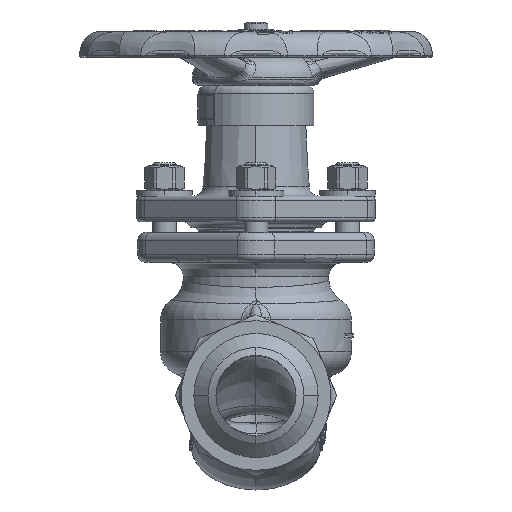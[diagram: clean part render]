
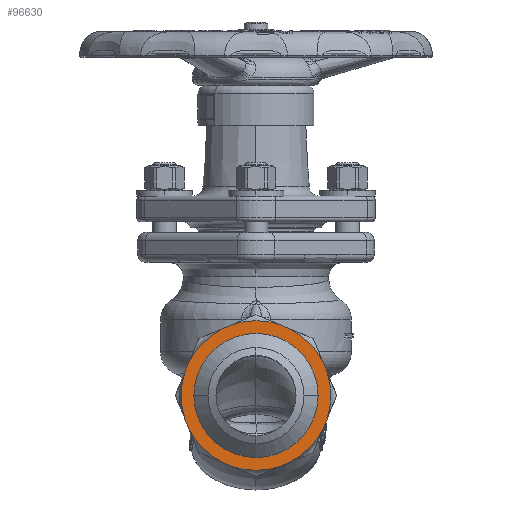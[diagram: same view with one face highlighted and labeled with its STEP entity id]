
A CAD part, left-side view. The second image highlights one B-rep face of the part: STEP entity #96630.
In plain terms, the highlighted planar face has unit normal (-1, 0, 0).
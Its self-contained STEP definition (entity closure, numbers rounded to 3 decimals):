
#10927=CARTESIAN_POINT('',(-92.5,0.,0.));
#10928=DIRECTION('',(-1.,0.,0.));
#10929=DIRECTION('',(0.,1.,0.));
#10930=AXIS2_PLACEMENT_3D('',#10927,#10928,#10929);
#10932=CARTESIAN_POINT('',(-92.5,0.,0.));
#10933=DIRECTION('',(-1.,0.,0.));
#10934=DIRECTION('',(0.,-1.,0.));
#10935=AXIS2_PLACEMENT_3D('',#10932,#10933,#10934);
#10937=DIRECTION('',(0.,-0.924,-0.383));
#10938=VECTOR('',#10937,5.509);
#10939=CARTESIAN_POINT('',(-92.5,-11.806,35.7));
#10940=LINE('',#10939,#10938);
#10945=CARTESIAN_POINT('',(-92.5,0.,0.));
#10946=DIRECTION('',(-1.,0.,0.));
#10947=DIRECTION('',(0.,-0.314,0.949));
#10948=AXIS2_PLACEMENT_3D('',#10945,#10946,#10947);
#10972=DIRECTION('',(0.,-0.924,0.383));
#10973=VECTOR('',#10972,5.509);
#10974=CARTESIAN_POINT('',(-92.5,16.895,33.591));
#10975=LINE('',#10974,#10973);
#10980=CARTESIAN_POINT('',(-92.5,0.,0.));
#10981=DIRECTION('',(-1.,0.,0.));
#10982=DIRECTION('',(0.,0.449,0.893));
#10983=AXIS2_PLACEMENT_3D('',#10980,#10981,#10982);
#11007=DIRECTION('',(0.,-0.383,0.924));
#11008=VECTOR('',#11007,5.509);
#11009=CARTESIAN_POINT('',(-92.5,35.7,11.806));
#11010=LINE('',#11009,#11008);
#11015=CARTESIAN_POINT('',(-92.5,0.,0.));
#11016=DIRECTION('',(-1.,0.,0.));
#11017=DIRECTION('',(0.,0.949,0.314));
#11018=AXIS2_PLACEMENT_3D('',#11015,#11016,#11017);
#11042=DIRECTION('',(0.,0.383,0.924));
#11043=VECTOR('',#11042,5.509);
#11044=CARTESIAN_POINT('',(-92.5,33.591,-16.895));
#11045=LINE('',#11044,#11043);
#11050=CARTESIAN_POINT('',(-92.5,0.,0.));
#11051=DIRECTION('',(-1.,0.,0.));
#11052=DIRECTION('',(0.,0.893,-0.449));
#11053=AXIS2_PLACEMENT_3D('',#11050,#11051,#11052);
#11077=DIRECTION('',(0.,0.924,0.383));
#11078=VECTOR('',#11077,5.509);
#11079=CARTESIAN_POINT('',(-92.5,11.806,-35.7));
#11080=LINE('',#11079,#11078);
#11085=CARTESIAN_POINT('',(-92.5,0.,0.));
#11086=DIRECTION('',(-1.,0.,0.));
#11087=DIRECTION('',(0.,0.314,-0.949));
#11088=AXIS2_PLACEMENT_3D('',#11085,#11086,#11087);
#11112=DIRECTION('',(0.,0.924,-0.383));
#11113=VECTOR('',#11112,5.509);
#11114=CARTESIAN_POINT('',(-92.5,-16.895,-33.591));
#11115=LINE('',#11114,#11113);
#11120=CARTESIAN_POINT('',(-92.5,0.,0.));
#11121=DIRECTION('',(-1.,0.,0.));
#11122=DIRECTION('',(0.,-0.449,-0.893));
#11123=AXIS2_PLACEMENT_3D('',#11120,#11121,#11122);
#11147=DIRECTION('',(0.,0.383,-0.924));
#11148=VECTOR('',#11147,5.509);
#11149=CARTESIAN_POINT('',(-92.5,-35.7,-11.806));
#11150=LINE('',#11149,#11148);
#11155=CARTESIAN_POINT('',(-92.5,0.,0.));
#11156=DIRECTION('',(-1.,0.,0.));
#11157=DIRECTION('',(0.,-0.949,-0.314));
#11158=AXIS2_PLACEMENT_3D('',#11155,#11156,#11157);
#11182=DIRECTION('',(0.,-0.383,-0.924));
#11183=VECTOR('',#11182,5.509);
#11184=CARTESIAN_POINT('',(-92.5,-33.591,16.895));
#11185=LINE('',#11184,#11183);
#11190=CARTESIAN_POINT('',(-92.5,0.,0.));
#11191=DIRECTION('',(-1.,0.,0.));
#11192=DIRECTION('',(0.,-0.893,0.449));
#11193=AXIS2_PLACEMENT_3D('',#11190,#11191,#11192);
#71797=CARTESIAN_POINT('',(-92.5,-11.806,35.7));
#71798=CARTESIAN_POINT('',(-92.5,-16.895,33.591));
#71799=VERTEX_POINT('',#71797);
#71800=VERTEX_POINT('',#71798);
#71805=CARTESIAN_POINT('',(-92.5,-33.591,16.895));
#71806=CARTESIAN_POINT('',(-92.5,-35.7,11.806));
#71807=VERTEX_POINT('',#71805);
#71808=VERTEX_POINT('',#71806);
#71813=CARTESIAN_POINT('',(-92.5,-35.7,-11.806));
#71814=CARTESIAN_POINT('',(-92.5,-33.591,-16.895));
#71815=VERTEX_POINT('',#71813);
#71816=VERTEX_POINT('',#71814);
#71821=CARTESIAN_POINT('',(-92.5,-16.895,-33.591));
#71822=CARTESIAN_POINT('',(-92.5,-11.806,-35.7));
#71823=VERTEX_POINT('',#71821);
#71824=VERTEX_POINT('',#71822);
#71829=CARTESIAN_POINT('',(-92.5,11.806,-35.7));
#71830=CARTESIAN_POINT('',(-92.5,16.895,-33.591));
#71831=VERTEX_POINT('',#71829);
#71832=VERTEX_POINT('',#71830);
#71837=CARTESIAN_POINT('',(-92.5,33.591,-16.895));
#71838=CARTESIAN_POINT('',(-92.5,35.7,-11.806));
#71839=VERTEX_POINT('',#71837);
#71840=VERTEX_POINT('',#71838);
#71845=CARTESIAN_POINT('',(-92.5,35.7,11.806));
#71846=CARTESIAN_POINT('',(-92.5,33.591,16.895));
#71847=VERTEX_POINT('',#71845);
#71848=VERTEX_POINT('',#71846);
#71853=CARTESIAN_POINT('',(-92.5,16.895,33.591));
#71854=CARTESIAN_POINT('',(-92.5,11.806,35.7));
#71855=VERTEX_POINT('',#71853);
#71856=VERTEX_POINT('',#71854);
#72453=CARTESIAN_POINT('',(-92.5,31.221,0.));
#72454=CARTESIAN_POINT('',(-92.5,-31.221,0.));
#72455=VERTEX_POINT('',#72453);
#72456=VERTEX_POINT('',#72454);
#96586=CARTESIAN_POINT('',(-92.5,0.,0.));
#96587=DIRECTION('',(-1.,0.,0.));
#96588=DIRECTION('',(0.,0.,1.));
#96589=AXIS2_PLACEMENT_3D('',#96586,#96587,#96588);
#96590=PLANE('',#96589);
#96592=ORIENTED_EDGE('',*,*,#96591,.T.);
#96594=ORIENTED_EDGE('',*,*,#96593,.F.);
#96596=ORIENTED_EDGE('',*,*,#96595,.T.);
#96598=ORIENTED_EDGE('',*,*,#96597,.F.);
#96600=ORIENTED_EDGE('',*,*,#96599,.T.);
#96602=ORIENTED_EDGE('',*,*,#96601,.F.);
#96604=ORIENTED_EDGE('',*,*,#96603,.T.);
#96606=ORIENTED_EDGE('',*,*,#96605,.F.);
#96608=ORIENTED_EDGE('',*,*,#96607,.T.);
#96610=ORIENTED_EDGE('',*,*,#96609,.F.);
#96612=ORIENTED_EDGE('',*,*,#96611,.T.);
#96614=ORIENTED_EDGE('',*,*,#96613,.F.);
#96616=ORIENTED_EDGE('',*,*,#96615,.T.);
#96618=ORIENTED_EDGE('',*,*,#96617,.F.);
#96620=ORIENTED_EDGE('',*,*,#96619,.T.);
#96622=ORIENTED_EDGE('',*,*,#96621,.F.);
#96623=EDGE_LOOP('',(#96592,#96594,#96596,#96598,#96600,#96602,#96604,#96606,
#96608,#96610,#96612,#96614,#96616,#96618,#96620,#96622));
#96624=FACE_OUTER_BOUND('',#96623,.F.);
#96625=ORIENTED_EDGE('',*,*,#96574,.T.);
#96627=ORIENTED_EDGE('',*,*,#96626,.T.);
#96628=EDGE_LOOP('',(#96625,#96627));
#96629=FACE_BOUND('',#96628,.F.);
#96630=ADVANCED_FACE('',(#96624,#96629),#96590,.T.);
#10931=CIRCLE('',#10930,31.221);
#10936=CIRCLE('',#10935,31.221);
#10949=CIRCLE('',#10948,37.601);
#10984=CIRCLE('',#10983,37.601);
#11019=CIRCLE('',#11018,37.601);
#11054=CIRCLE('',#11053,37.601);
#11089=CIRCLE('',#11088,37.601);
#11124=CIRCLE('',#11123,37.601);
#11159=CIRCLE('',#11158,37.601);
#11194=CIRCLE('',#11193,37.601);
#96574=EDGE_CURVE('',#72455,#72456,#10931,.T.);
#96591=EDGE_CURVE('',#71799,#71800,#10940,.T.);
#96593=EDGE_CURVE('',#71807,#71800,#11194,.T.);
#96595=EDGE_CURVE('',#71807,#71808,#11185,.T.);
#96597=EDGE_CURVE('',#71815,#71808,#11159,.T.);
#96599=EDGE_CURVE('',#71815,#71816,#11150,.T.);
#96601=EDGE_CURVE('',#71823,#71816,#11124,.T.);
#96603=EDGE_CURVE('',#71823,#71824,#11115,.T.);
#96605=EDGE_CURVE('',#71831,#71824,#11089,.T.);
#96607=EDGE_CURVE('',#71831,#71832,#11080,.T.);
#96609=EDGE_CURVE('',#71839,#71832,#11054,.T.);
#96611=EDGE_CURVE('',#71839,#71840,#11045,.T.);
#96613=EDGE_CURVE('',#71847,#71840,#11019,.T.);
#96615=EDGE_CURVE('',#71847,#71848,#11010,.T.);
#96617=EDGE_CURVE('',#71855,#71848,#10984,.T.);
#96619=EDGE_CURVE('',#71855,#71856,#10975,.T.);
#96621=EDGE_CURVE('',#71799,#71856,#10949,.T.);
#96626=EDGE_CURVE('',#72456,#72455,#10936,.T.);
